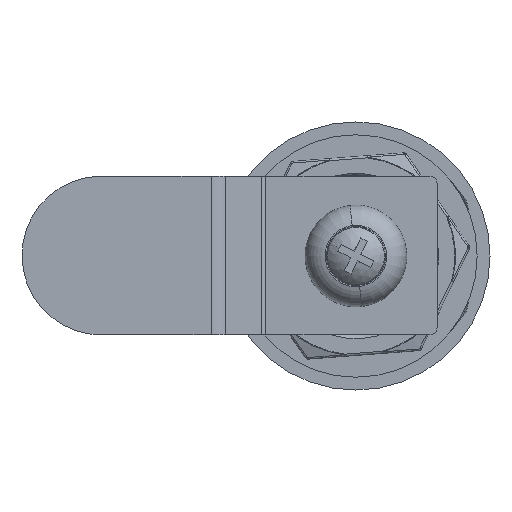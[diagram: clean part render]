
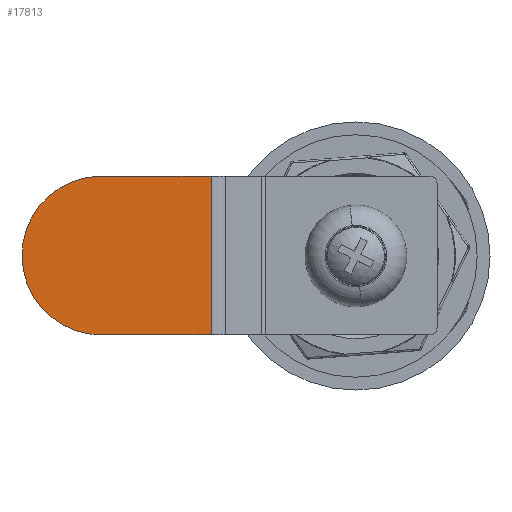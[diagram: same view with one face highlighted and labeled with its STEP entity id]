
A CAD part, front view. The second image highlights one B-rep face of the part: STEP entity #17813.
In plain terms, the highlighted planar face has unit normal (0, -1, 0) as drawn and (0, 1, 0) by its records, which use the part's own axes.
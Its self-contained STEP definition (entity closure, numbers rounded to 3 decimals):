
#212 = PLANE ( 'NONE',  #8763 ) ;
#1467 = DIRECTION ( 'NONE',  ( 0., 0., 1. ) ) ;
#1884 = ORIENTED_EDGE ( 'NONE', *, *, #19658, .T. ) ;
#2174 = CARTESIAN_POINT ( 'NONE',  ( -25.309, 6., -10.741 ) ) ;
#2812 = VECTOR ( 'NONE', #7375, 1000. ) ;
#2999 = VERTEX_POINT ( 'NONE', #8850 ) ;
#3912 = EDGE_LOOP ( 'NONE', ( #1884, #8614, #11269, #13472 ) ) ;
#7375 = DIRECTION ( 'NONE',  ( -1., 0., 0. ) ) ;
#8337 = CARTESIAN_POINT ( 'NONE',  ( 23.227, 6., 10.859 ) ) ;
#8470 = VERTEX_POINT ( 'NONE', #11122 ) ;
#8514 = CARTESIAN_POINT ( 'NONE',  ( 7.784, 6., 0.065 ) ) ;
#8614 = ORIENTED_EDGE ( 'NONE', *, *, #18633, .T. ) ;
#8763 = AXIS2_PLACEMENT_3D ( 'NONE', #18542, #21755, #13709 ) ;
#8850 = CARTESIAN_POINT ( 'NONE',  ( 7.784, 6., 10.859 ) ) ;
#9865 = CARTESIAN_POINT ( 'NONE',  ( 22.721, 6., 0.065 ) ) ;
#10198 = AXIS2_PLACEMENT_3D ( 'NONE', #9865, #16658, #1467 ) ;
#10594 = VERTEX_POINT ( 'NONE', #8337 ) ;
#10870 = CARTESIAN_POINT ( 'NONE',  ( -25.309, 6., 10.859 ) ) ;
#11122 = CARTESIAN_POINT ( 'NONE',  ( 22.721, 6., -10.741 ) ) ;
#11269 = ORIENTED_EDGE ( 'NONE', *, *, #17151, .T. ) ;
#11534 = DIRECTION ( 'NONE',  ( 0., 0., 1. ) ) ;
#13472 = ORIENTED_EDGE ( 'NONE', *, *, #18663, .T. ) ;
#13709 = DIRECTION ( 'NONE',  ( 0., 0., 1. ) ) ;
#15384 = FACE_OUTER_BOUND ( 'NONE', #3912, .T. ) ;
#15445 = CARTESIAN_POINT ( 'NONE',  ( 7.784, 6., -10.741 ) ) ;
#15527 = VECTOR ( 'NONE', #11534, 1000. ) ;
#16658 = DIRECTION ( 'NONE',  ( 0., 1., 0. ) ) ;
#17151 = EDGE_CURVE ( 'NONE', #2999, #10594, #19773, .T. ) ;
#17227 = VECTOR ( 'NONE', #17999, 1000. ) ;
#17480 = LINE ( 'NONE', #2174, #2812 ) ;
#17813 = ADVANCED_FACE ( 'NONE', ( #15384 ), #212, .T. ) ;
#17988 = VERTEX_POINT ( 'NONE', #15445 ) ;
#17999 = DIRECTION ( 'NONE',  ( 1., 0., 0. ) ) ;
#18542 = CARTESIAN_POINT ( 'NONE',  ( 20.385, 6., 0.065 ) ) ;
#18633 = EDGE_CURVE ( 'NONE', #17988, #2999, #18672, .T. ) ;
#18663 = EDGE_CURVE ( 'NONE', #10594, #8470, #20176, .T. ) ;
#18672 = LINE ( 'NONE', #8514, #15527 ) ;
#19658 = EDGE_CURVE ( 'NONE', #8470, #17988, #17480, .T. ) ;
#19773 = LINE ( 'NONE', #10870, #17227 ) ;
#20176 = CIRCLE ( 'NONE', #10198, 10.806 ) ;
#21755 = DIRECTION ( 'NONE',  ( 0., 1., 0. ) ) ;
